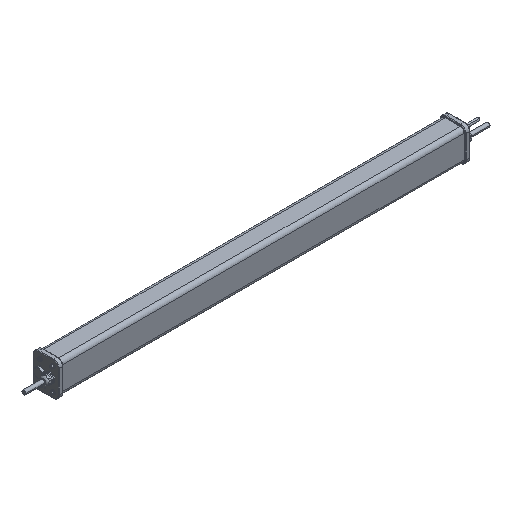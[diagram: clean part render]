
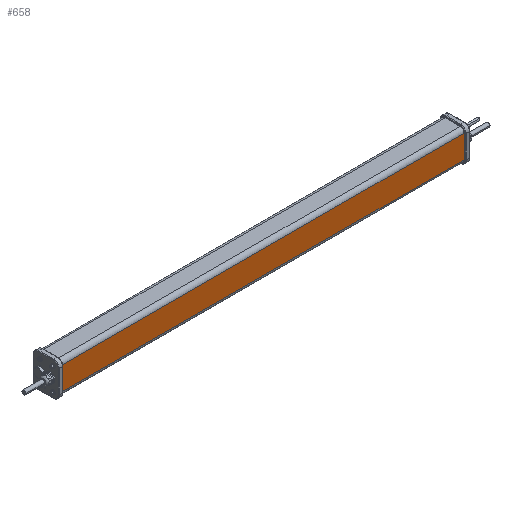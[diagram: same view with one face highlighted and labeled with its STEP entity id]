
A CAD part, isometric view. The second image highlights one B-rep face of the part: STEP entity #658.
In plain terms, the highlighted planar face has unit normal (0, -1, 0).
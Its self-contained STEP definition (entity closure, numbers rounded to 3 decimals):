
#347 = VERTEX_POINT ( 'NONE', #6706 ) ;
#354 = AXIS2_PLACEMENT_3D ( 'NONE', #9746, #11058, #12551 ) ;
#484 = PLANE ( 'NONE',  #354 ) ;
#658 = ADVANCED_FACE ( 'NONE', ( #16478 ), #484, .F. ) ;
#766 = VECTOR ( 'NONE', #3887, 1000. ) ;
#1515 = LINE ( 'NONE', #5436, #766 ) ;
#1830 = EDGE_CURVE ( 'NONE', #347, #14703, #6319, .T. ) ;
#3084 = EDGE_CURVE ( 'NONE', #347, #16543, #1515, .T. ) ;
#3244 = ORIENTED_EDGE ( 'NONE', *, *, #15780, .F. ) ;
#3887 = DIRECTION ( 'NONE',  ( 0., 0., 1. ) ) ;
#4820 = CARTESIAN_POINT ( 'NONE',  ( -1600., 0., -23.75 ) ) ;
#5436 = CARTESIAN_POINT ( 'NONE',  ( -417.5, 0., -34.75 ) ) ;
#5587 = DIRECTION ( 'NONE',  ( 1., 0., 0. ) ) ;
#6174 = VECTOR ( 'NONE', #10156, 1000. ) ;
#6319 = LINE ( 'NONE', #4820, #6174 ) ;
#6448 = VECTOR ( 'NONE', #13517, 1000. ) ;
#6706 = CARTESIAN_POINT ( 'NONE',  ( -417.5, 0., -23.75 ) ) ;
#7390 = EDGE_LOOP ( 'NONE', ( #9986, #11550, #3244, #12613 ) ) ;
#8013 = LINE ( 'NONE', #15777, #6448 ) ;
#9160 = VECTOR ( 'NONE', #5587, 1000. ) ;
#9746 = CARTESIAN_POINT ( 'NONE',  ( -1600., 0., 0. ) ) ;
#9986 = ORIENTED_EDGE ( 'NONE', *, *, #1830, .T. ) ;
#10156 = DIRECTION ( 'NONE',  ( 1., 0., 0. ) ) ;
#10163 = EDGE_CURVE ( 'NONE', #14703, #13445, #8013, .T. ) ;
#11058 = DIRECTION ( 'NONE',  ( 0., 1., 0. ) ) ;
#11550 = ORIENTED_EDGE ( 'NONE', *, *, #10163, .T. ) ;
#12062 = CARTESIAN_POINT ( 'NONE',  ( -1600., 0., 23.75 ) ) ;
#12551 = DIRECTION ( 'NONE',  ( 0., 0., 1. ) ) ;
#12613 = ORIENTED_EDGE ( 'NONE', *, *, #3084, .F. ) ;
#13445 = VERTEX_POINT ( 'NONE', #16237 ) ;
#13499 = CARTESIAN_POINT ( 'NONE',  ( 417.5, 0., -23.75 ) ) ;
#13517 = DIRECTION ( 'NONE',  ( 0., 0., 1. ) ) ;
#13534 = CARTESIAN_POINT ( 'NONE',  ( -417.5, 0., 23.75 ) ) ;
#14703 = VERTEX_POINT ( 'NONE', #13499 ) ;
#15777 = CARTESIAN_POINT ( 'NONE',  ( 417.5, 0., -34.75 ) ) ;
#15780 = EDGE_CURVE ( 'NONE', #16543, #13445, #17218, .T. ) ;
#16237 = CARTESIAN_POINT ( 'NONE',  ( 417.5, 0., 23.75 ) ) ;
#16478 = FACE_OUTER_BOUND ( 'NONE', #7390, .T. ) ;
#16543 = VERTEX_POINT ( 'NONE', #13534 ) ;
#17218 = LINE ( 'NONE', #12062, #9160 ) ;
